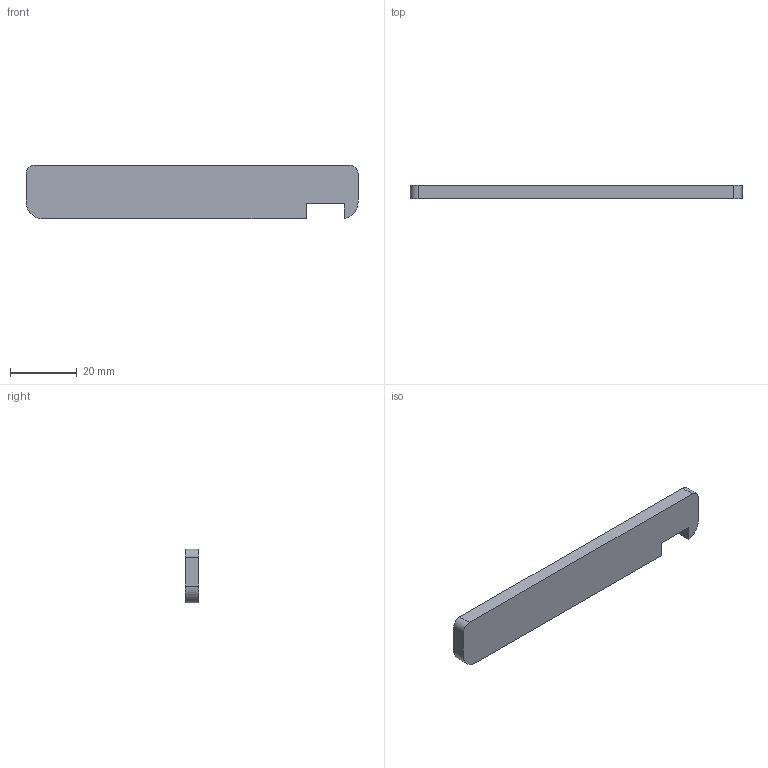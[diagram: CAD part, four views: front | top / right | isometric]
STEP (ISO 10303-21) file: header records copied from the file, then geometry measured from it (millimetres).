
FILE_DESCRIPTION(/* description */ (''),/* implementation_level */ '2;1');
FILE_NAME(/* name */ 'Front Cover_Part 02.stp',/* time_stamp */ '2025-08-28T02:56:57+09:00',/* author */ (''),/* organization */ (''),/* preprocessor_version */ 'ST-DEVELOPER v11',/* originating_system */ 'SIEMENS PLM Software NX 7.5',/* authorisation */ '');
FILE_SCHEMA (('CONFIG_CONTROL_DESIGN'));
Length unit declared in the file: millimetre
Products named in the file (1): gyunFAD7nv27
Bounding box: 99.34 x 4.1 x 16.1 mm (x, y, z)
Volume: 6287.3 mm3; surface area: 4023.9 mm2
Topology: 1 solids, 1 shells, 13 faces, 33 edges, 22 vertices
Faces by surface type: plane 9, cylinder 4
Entity records: 485 total; most frequent: DIRECTION 71, CARTESIAN_POINT 70, ORIENTED_EDGE 66, EDGE_CURVE 33, LINE 25, VECTOR 25, AXIS2_PLACEMENT_3D 23, VERTEX_POINT 22
